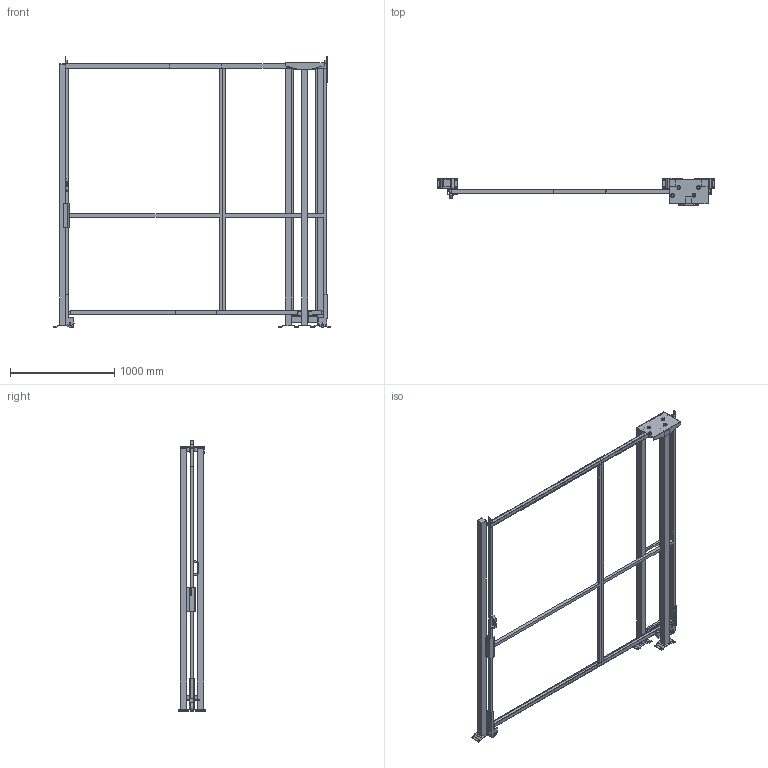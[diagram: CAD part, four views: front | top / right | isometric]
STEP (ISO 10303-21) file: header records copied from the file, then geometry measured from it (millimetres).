
FILE_DESCRIPTION(/* description */ (''),/* implementation_level */ '2;1');
FILE_NAME(/* name */ 'C:\SafeGuarding\ELABORATI\KLADKA_2025-03-20-12-02-46.stp',/* time_stamp */ '2025-03-20T12:02:47+01:00',/* author */ ('admin'),/* organization */ (''),/* preprocessor_version */ 'ST-DEVELOPER v18.1',/* originating_system */ 'AutoCAD Mechanical',/* authorisation */ '');
FILE_SCHEMA (('AUTOMOTIVE_DESIGN { 1 0 10303 214 3 1 1 }'));
Length unit declared in the file: millimetre
Products named in the file (5): Product; VFPA.REPE30.10002400; VFPA.REPE30.15002400; VFPA.REPE2002502400; P_VFMA.V360SDU.2520
Assembly tree (7 placements, depth 2):
  Product
    VFPA.REPE30.10002400
    VFPA.REPE30.15002400
    VFPA.REPE2002502400
    P_VFMA.V360SDU.2520  x4
Bounding box: 2661.97 x 264.14 x 2590.02 mm (x, y, z)
Volume: 56852054.2 mm3; surface area: 7225203.9 mm2
Topology: 48 solids, 59 shells, 501 faces, 1648 edges, 1631 vertices
Faces by surface type: plane 449, cylinder 50, sphere 2
Full cylindrical faces by diameter (mm): 9 x4, 11 x16, 13 x4, 30 x6, 36 x8, 80 x2
Entity records: 15002 total; most frequent: CARTESIAN_POINT 3242, DIRECTION 2264, ORIENTED_EDGE 2034, LINE 1130, VECTOR 1130, EDGE_CURVE 1066, VERTEX_POINT 750, AXIS2_PLACEMENT_3D 567
